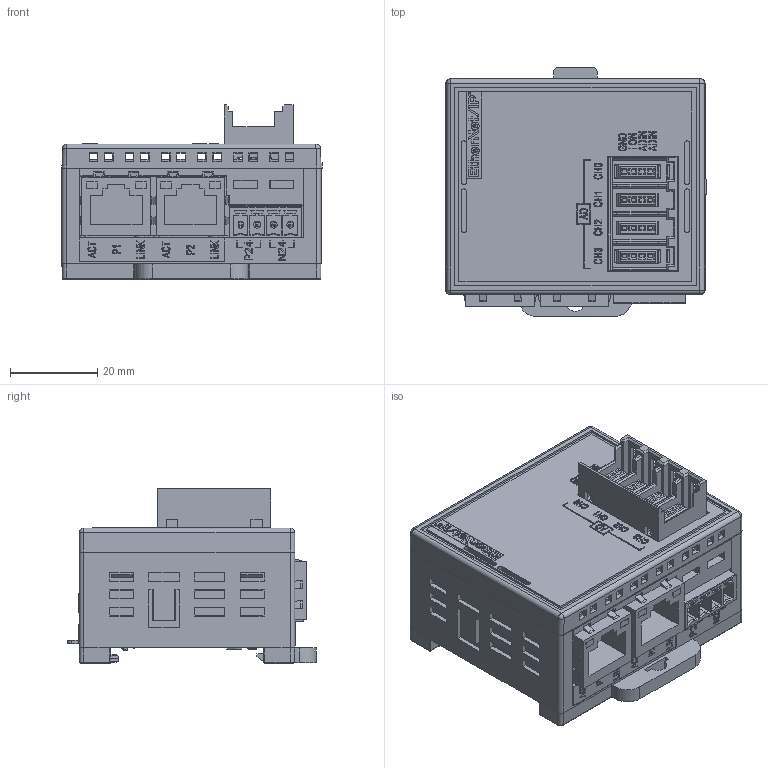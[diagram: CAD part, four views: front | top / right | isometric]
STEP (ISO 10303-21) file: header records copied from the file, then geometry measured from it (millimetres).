
FILE_DESCRIPTION((''),'2;1');
FILE_NAME('EICEA40','2026-05-11T15:20:10',('gijyu181'),(''),'CREO PARAMETRIC BY PTC INC, 2018050','CREO PARAMETRIC BY PTC INC, 2018050','');
FILE_SCHEMA(('CONFIG_CONTROL_DESIGN','SHAPE_APPEARANCE_LAYERS_GROUPS'));
Products named in the file (1): EICEA40
Bounding box: 59.75 x 57.15 x 40 mm (x, y, z)
Volume: 68868.9 mm3; surface area: 38443.5 mm2
Topology: 1 solids, 17 shells, 6455 faces, 18170 edges, 12011 vertices
Faces by surface type: plane 4909, cylinder 750, extrusion 682, sphere 44, torus 26, bspline 24, cone 20
Entity records: 261756 total; most frequent: CARTESIAN_POINT 45443, ORIENTED_EDGE 36304, DIRECTION 30169, EDGE_CURVE 18156, VECTOR 15561, LINE 14879, VERTEX_POINT 12011, PRESENTATION_STYLE_ASSIGNMENT 9978
